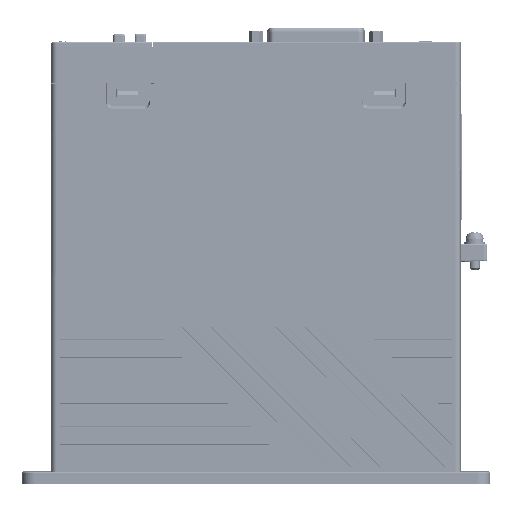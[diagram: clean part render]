
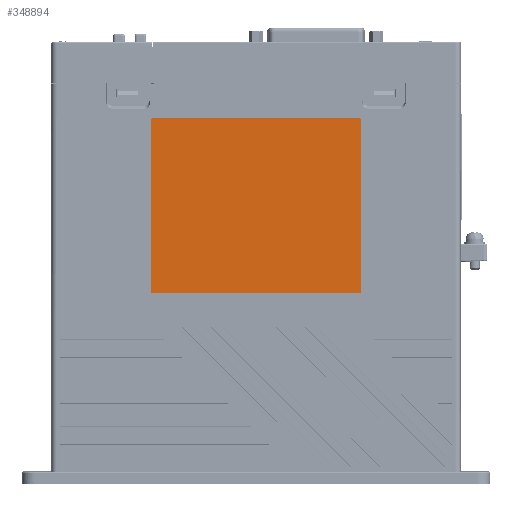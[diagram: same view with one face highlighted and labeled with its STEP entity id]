
A CAD part, top view. The second image highlights one B-rep face of the part: STEP entity #348894.
In plain terms, the highlighted planar face has unit normal (0, 0, 1).
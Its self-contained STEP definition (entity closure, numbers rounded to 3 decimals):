
#324294=CARTESIAN_POINT('',(50.5,142.504,-2.85));
#324295=CARTESIAN_POINT('',(50.5,142.545,-2.85));
#324296=CARTESIAN_POINT('',(50.51,142.618,-2.85));
#324297=CARTESIAN_POINT('',(50.552,142.741,-2.85));
#324298=CARTESIAN_POINT('',(50.638,142.862,-2.85));
#324299=CARTESIAN_POINT('',(50.759,142.948,-2.85));
#324300=CARTESIAN_POINT('',(50.882,142.99,-2.85));
#324301=CARTESIAN_POINT('',(50.955,143.,-2.85));
#324302=CARTESIAN_POINT('',(50.996,143.,-2.85));
#324304=DIRECTION('',(1.,0.,0.));
#324305=VECTOR('',#324304,81.007);
#324306=CARTESIAN_POINT('',(50.996,143.,-2.85));
#324307=LINE('',#324306,#324305);
#324308=CARTESIAN_POINT('',(132.004,143.,-2.85));
#324309=CARTESIAN_POINT('',(132.045,143.,-2.85));
#324310=CARTESIAN_POINT('',(132.118,142.99,-2.85));
#324311=CARTESIAN_POINT('',(132.241,142.948,-2.85));
#324312=CARTESIAN_POINT('',(132.362,142.862,-2.85));
#324313=CARTESIAN_POINT('',(132.448,142.741,-2.85));
#324314=CARTESIAN_POINT('',(132.49,142.618,-2.85));
#324315=CARTESIAN_POINT('',(132.5,142.545,-2.85));
#324316=CARTESIAN_POINT('',(132.5,142.504,-2.85));
#324318=DIRECTION('',(0.,-1.,0.));
#324319=VECTOR('',#324318,67.407);
#324320=CARTESIAN_POINT('',(132.5,142.504,-2.85));
#324321=LINE('',#324320,#324319);
#324322=CARTESIAN_POINT('',(132.5,75.096,-2.85));
#324323=CARTESIAN_POINT('',(132.5,75.055,-2.85));
#324324=CARTESIAN_POINT('',(132.49,74.982,-2.85));
#324325=CARTESIAN_POINT('',(132.448,74.859,-2.85));
#324326=CARTESIAN_POINT('',(132.362,74.738,-2.85));
#324327=CARTESIAN_POINT('',(132.241,74.652,-2.85));
#324328=CARTESIAN_POINT('',(132.118,74.61,-2.85));
#324329=CARTESIAN_POINT('',(132.045,74.6,-2.85));
#324330=CARTESIAN_POINT('',(132.004,74.6,-2.85));
#324332=DIRECTION('',(-1.,0.,0.));
#324333=VECTOR('',#324332,81.007);
#324334=CARTESIAN_POINT('',(132.004,74.6,-2.85));
#324335=LINE('',#324334,#324333);
#324336=CARTESIAN_POINT('',(50.996,74.6,-2.85));
#324337=CARTESIAN_POINT('',(50.955,74.6,-2.85));
#324338=CARTESIAN_POINT('',(50.882,74.61,-2.85));
#324339=CARTESIAN_POINT('',(50.759,74.652,-2.85));
#324340=CARTESIAN_POINT('',(50.638,74.738,-2.85));
#324341=CARTESIAN_POINT('',(50.552,74.859,-2.85));
#324342=CARTESIAN_POINT('',(50.51,74.982,-2.85));
#324343=CARTESIAN_POINT('',(50.5,75.055,-2.85));
#324344=CARTESIAN_POINT('',(50.5,75.096,-2.85));
#324346=DIRECTION('',(0.,1.,0.));
#324347=VECTOR('',#324346,67.407);
#324348=CARTESIAN_POINT('',(50.5,75.096,-2.85));
#324349=LINE('',#324348,#324347);
#330702=CARTESIAN_POINT('',(132.5,142.504,-2.85));
#330703=VERTEX_POINT('',#330702);
#330704=CARTESIAN_POINT('',(132.5,75.096,-2.85));
#330705=VERTEX_POINT('',#330704);
#330706=VERTEX_POINT('',#324308);
#330707=VERTEX_POINT('',#324294);
#330708=VERTEX_POINT('',#324302);
#330709=VERTEX_POINT('',#324330);
#330710=CARTESIAN_POINT('',(50.996,74.6,-2.85));
#330711=VERTEX_POINT('',#330710);
#330712=VERTEX_POINT('',#324344);
#348873=CARTESIAN_POINT('',(91.5,5.,-2.85));
#348874=DIRECTION('',(0.,0.,1.));
#348875=DIRECTION('',(-1.,0.,0.));
#348876=AXIS2_PLACEMENT_3D('',#348873,#348874,#348875);
#348877=PLANE('',#348876);
#348879=ORIENTED_EDGE('',*,*,#348878,.T.);
#348881=ORIENTED_EDGE('',*,*,#348880,.T.);
#348882=ORIENTED_EDGE('',*,*,#348857,.T.);
#348883=ORIENTED_EDGE('',*,*,#348840,.T.);
#348885=ORIENTED_EDGE('',*,*,#348884,.T.);
#348887=ORIENTED_EDGE('',*,*,#348886,.T.);
#348889=ORIENTED_EDGE('',*,*,#348888,.T.);
#348891=ORIENTED_EDGE('',*,*,#348890,.T.);
#348892=EDGE_LOOP('',(#348879,#348881,#348882,#348883,#348885,#348887,#348889,
#348891));
#348893=FACE_OUTER_BOUND('',#348892,.F.);
#324303=B_SPLINE_CURVE_WITH_KNOTS('',3,(#324294,#324295,#324296,#324297,#324298,
#324299,#324300,#324301,#324302),.UNSPECIFIED.,.F.,.F.,(4,1,1,1,1,1,4),(0.,
0.125,0.25,0.5,0.75,0.875,1.),.UNSPECIFIED.);
#324317=B_SPLINE_CURVE_WITH_KNOTS('',3,(#324308,#324309,#324310,#324311,#324312,
#324313,#324314,#324315,#324316),.UNSPECIFIED.,.F.,.F.,(4,1,1,1,1,1,4),(0.,
0.125,0.25,0.5,0.75,0.875,1.),.UNSPECIFIED.);
#324331=B_SPLINE_CURVE_WITH_KNOTS('',3,(#324322,#324323,#324324,#324325,#324326,
#324327,#324328,#324329,#324330),.UNSPECIFIED.,.F.,.F.,(4,1,1,1,1,1,4),(0.,
0.125,0.25,0.5,0.75,0.875,1.),.UNSPECIFIED.);
#324345=B_SPLINE_CURVE_WITH_KNOTS('',3,(#324336,#324337,#324338,#324339,#324340,
#324341,#324342,#324343,#324344),.UNSPECIFIED.,.F.,.F.,(4,1,1,1,1,1,4),(0.,
0.125,0.25,0.5,0.75,0.875,1.),.UNSPECIFIED.);
#348840=EDGE_CURVE('',#330703,#330705,#324321,.T.);
#348857=EDGE_CURVE('',#330706,#330703,#324317,.T.);
#348878=EDGE_CURVE('',#330707,#330708,#324303,.T.);
#348880=EDGE_CURVE('',#330708,#330706,#324307,.T.);
#348884=EDGE_CURVE('',#330705,#330709,#324331,.T.);
#348886=EDGE_CURVE('',#330709,#330711,#324335,.T.);
#348888=EDGE_CURVE('',#330711,#330712,#324345,.T.);
#348890=EDGE_CURVE('',#330712,#330707,#324349,.T.);
#348894=ADVANCED_FACE('',(#348893),#348877,.T.);
